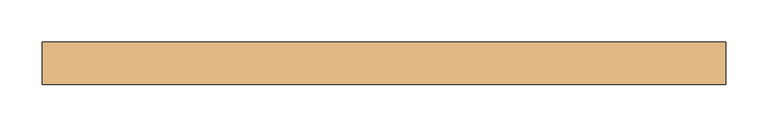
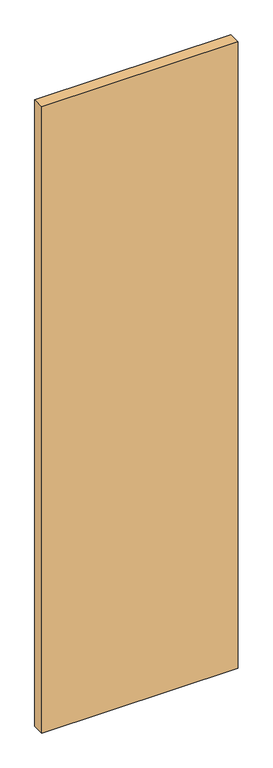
"""IFC4 building model written with IfcOpenShell, lengths in millimetres: door geometry, Planitar - Swap_Flush Panel : Planitar - Swap_Flush Panel."""

from ifc_helpers import new_model, si_unit, origin, origin_with_axes, place, context, project, spatial, polyline, outline, extrude, source, transform, mapped, element, save


def door_1181abbb(model_context):
    return source(origin(), model_context, "Body", "SweptSolid", [
        extrude(outline(polyline([(406.4, 25.4), (406.4, -25.4), (-406.4, -25.4), (-406.4, 25.4), (406.4, 25.4)])), origin_with_axes(), (0.0, 0.0, 1.0), 2743.2),
    ])


if __name__ == "__main__":
    model = new_model("IFC4")
    model_context = context("Model", 3, world=origin())
    ifc_project = project(units=[si_unit("LENGTHUNIT", "METRE", prefix="MILLI")], contexts=[model_context])
    site = spatial("IfcSite", under=ifc_project)
    building = spatial("IfcBuilding", under=site)
    placement = place(None, origin())
    door_shape = door_1181abbb(model_context)
    element("IfcDoor", 1, ObjectType="Planitar - Swap_Flush Panel : Planitar - Swap_Flush Panel", at=placement, inside=building, context=model_context, shape_type="MappedRepresentation", body=[
        mapped(door_shape, transform((0.0, 0.0, 0.0), x_axis=(1.0, 0.0, 0.0), y_axis=(0.0, 1.0, 0.0), z_axis=(0.0, 0.0, 1.0))),
    ])
    save(model, "model.ifc")
